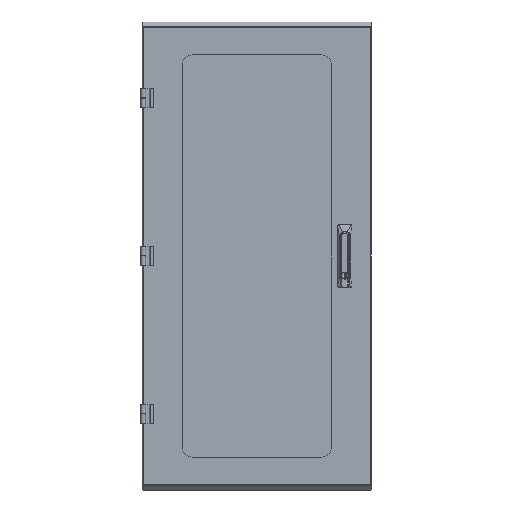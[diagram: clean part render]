
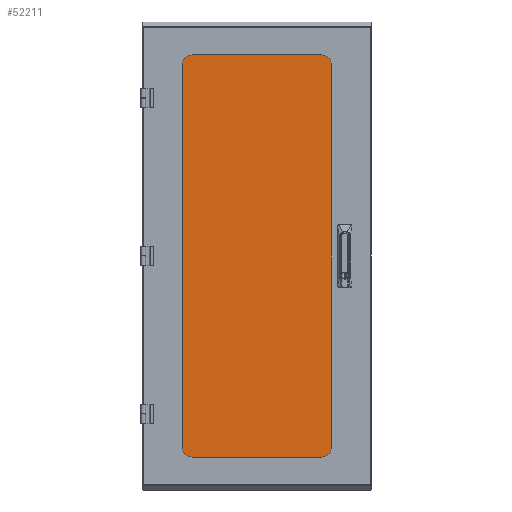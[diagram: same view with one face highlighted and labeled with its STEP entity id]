
A CAD part, front view. The second image highlights one B-rep face of the part: STEP entity #52211.
In plain terms, the highlighted planar face has unit normal (0, -1, 0) as drawn and (0, 1, 0) by its records, which use the part's own axes.
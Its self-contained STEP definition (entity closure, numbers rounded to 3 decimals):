
#5781=ORIENTED_EDGE('',*,*,#21230,.F.);
#5782=ORIENTED_EDGE('',*,*,#21239,.F.);
#5783=ORIENTED_EDGE('',*,*,#21236,.F.);
#5784=ORIENTED_EDGE('',*,*,#21233,.F.);
#21230=EDGE_CURVE('',#29027,#29028,#34161,.T.);
#21233=EDGE_CURVE('',#29028,#29030,#34164,.T.);
#21236=EDGE_CURVE('',#29030,#29032,#34167,.T.);
#21239=EDGE_CURVE('',#29032,#29027,#34170,.T.);
#29027=VERTEX_POINT('',#75958);
#29028=VERTEX_POINT('',#75960);
#29030=VERTEX_POINT('',#75966);
#29032=VERTEX_POINT('',#75972);
#34161=LINE('',#75959,#38882);
#34164=LINE('',#75965,#38885);
#34167=LINE('',#75971,#38888);
#34170=LINE('',#75976,#38891);
#38882=VECTOR('',#60551,1000.);
#38885=VECTOR('',#60556,1000.);
#38888=VECTOR('',#60561,1000.);
#38891=VECTOR('',#60566,1000.);
#43511=EDGE_LOOP('',(#5781,#5782,#5783,#5784));
#46962=FACE_BOUND('',#43511,.T.);
#50327=PLANE('',#55472);
#52211=ADVANCED_FACE('',(#46962),#50327,.F.);
#55472=AXIS2_PLACEMENT_3D('',#75977,#60567,#60568);
#60551=DIRECTION('',(-1.,0.,0.));
#60556=DIRECTION('',(0.,0.,-1.));
#60561=DIRECTION('',(1.,0.,0.));
#60566=DIRECTION('',(0.,0.,1.));
#60567=DIRECTION('',(0.,-1.,0.));
#60568=DIRECTION('',(0.,0.,-1.));
#75958=CARTESIAN_POINT('',(207.963,1.448,531.019));
#75959=CARTESIAN_POINT('',(207.963,1.448,531.019));
#75960=CARTESIAN_POINT('',(-207.963,1.448,531.019));
#75965=CARTESIAN_POINT('',(-207.963,1.448,531.019));
#75966=CARTESIAN_POINT('',(-207.963,1.448,-531.019));
#75971=CARTESIAN_POINT('',(-207.963,1.448,-531.019));
#75972=CARTESIAN_POINT('',(207.963,1.448,-531.019));
#75976=CARTESIAN_POINT('',(207.963,1.448,-531.019));
#75977=CARTESIAN_POINT('',(-207.963,1.448,531.019));
